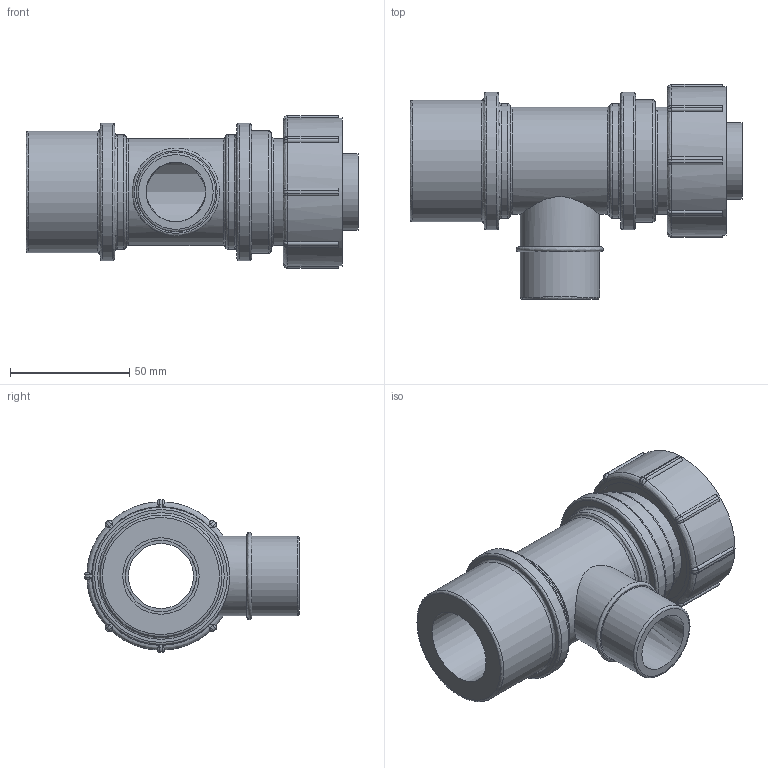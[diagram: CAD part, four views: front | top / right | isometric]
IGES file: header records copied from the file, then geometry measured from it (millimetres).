
Global section: file name: 0784L60320100A.ipt; native system: Autodesk Inventor 2015; preprocessor: unknown; author: KIM; date: 20180409.130814; units: millimetre
Bounding box: 139 x 90 x 64 mm (x, y, z)
Volume: 192770.7 mm3; surface area: 50977 mm2
Topology: 1 solids, 1 shells, 162 faces, 414 edges, 268 vertices
Faces by surface type: revolution 62, cylinder 52, plane 48
Full cylindrical faces by diameter (mm): 32 x1, 33.249 x2, 44.8 x2, 48 x2, 51 x1, 51.2 x1, 57.6 x2, 62.08 x1
